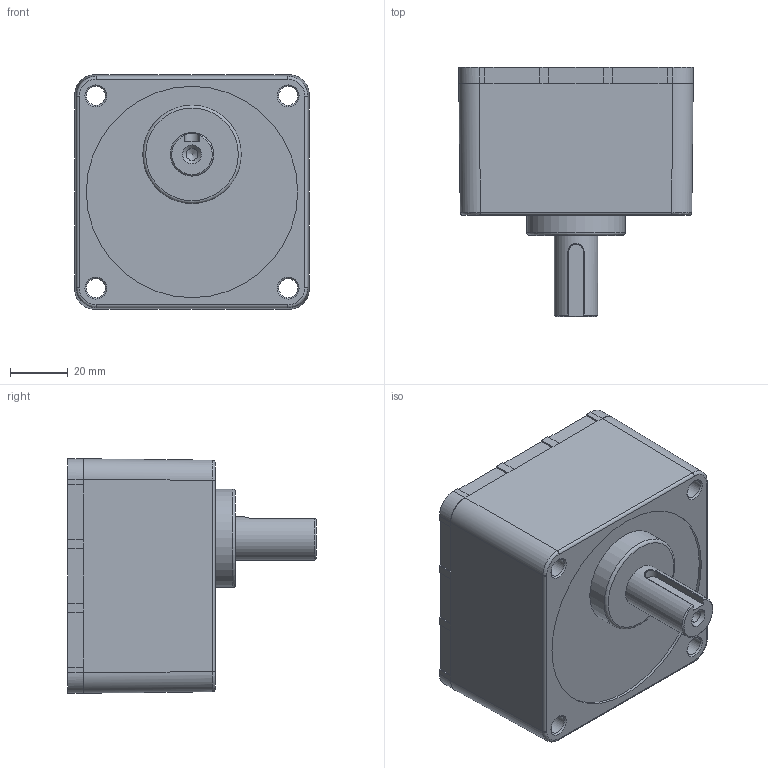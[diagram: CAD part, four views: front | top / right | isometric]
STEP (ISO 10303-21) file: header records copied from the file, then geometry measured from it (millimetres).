
FILE_DESCRIPTION((''),'2;1');
FILE_NAME('E:\2공장-도면\3D\STEP FILE\K8H200B.stp','2014-08-18T15:40:51',('輺'),(''),'Autodesk Inventor 2008','Autodesk Inventor 2008','');
FILE_SCHEMA(('CONFIG_CONTROL_DESIGN'));
Length unit declared in the file: millimetre
Products named in the file (1): 부품51
Bounding box: 81 x 86 x 81 mm (x, y, z)
Volume: 318039.2 mm3; surface area: 35694.1 mm2
Topology: 1 solids, 1 shells, 130 faces, 308 edges, 189 vertices
Faces by surface type: plane 86, cylinder 26, bspline 10, cone 7, torus 1
Full cylindrical faces by diameter (mm): 6.5 x4, 7 x4, 8.2 x1, 15 x1, 34 x1, 73 x2
Entity records: 4254 total; most frequent: CARTESIAN_POINT 1213, DIRECTION 577, ORIENTED_EDGE 562, EDGE_CURVE 281, VECTOR 203, LINE 203, AXIS2_PLACEMENT_3D 187, VERTEX_POINT 185
